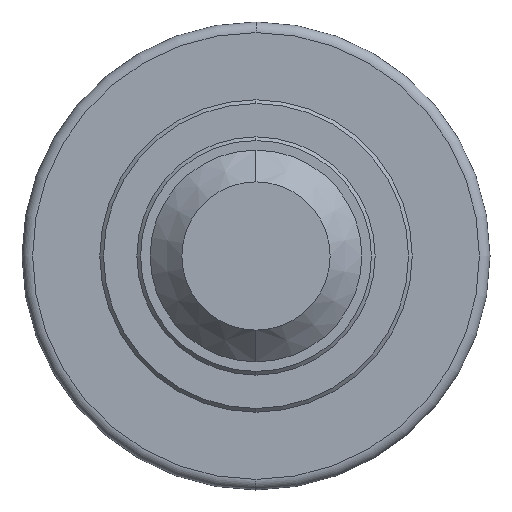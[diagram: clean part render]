
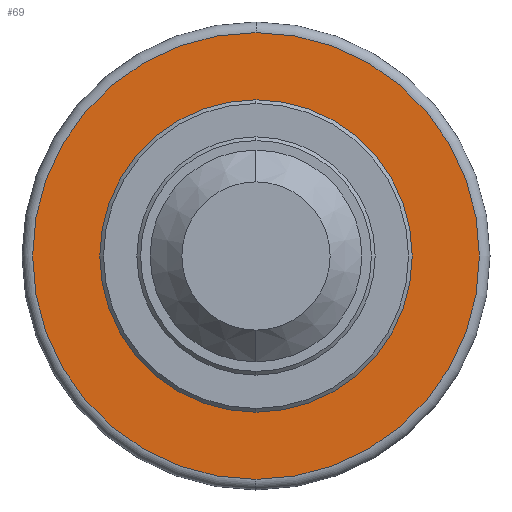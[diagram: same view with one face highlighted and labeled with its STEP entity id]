
A CAD part, left-side view. The second image highlights one B-rep face of the part: STEP entity #69.
In plain terms, the highlighted planar face has unit normal (-1, 0, 0).
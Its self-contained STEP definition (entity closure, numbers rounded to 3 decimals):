
#37 = EDGE_LOOP ( 'NONE', ( #589, #611 ) ) ;
#60 = CARTESIAN_POINT ( 'NONE',  ( 10.5, 0., 0. ) ) ;
#69 = ADVANCED_FACE ( 'NONE', ( #379, #78 ), #457, .T. ) ;
#77 = CARTESIAN_POINT ( 'NONE',  ( 10.5, 28.8, 0. ) ) ;
#78 = FACE_BOUND ( 'NONE', #236, .T. ) ;
#120 = CIRCLE ( 'NONE', #377, 42.2 ) ;
#133 = ORIENTED_EDGE ( 'NONE', *, *, #540, .F. ) ;
#135 = CARTESIAN_POINT ( 'NONE',  ( 10.5, 0., 0. ) ) ;
#151 = EDGE_CURVE ( 'NONE', #648, #551, #787, .T. ) ;
#204 = DIRECTION ( 'NONE',  ( 0., 0., 1. ) ) ;
#232 = DIRECTION ( 'NONE',  ( -1., 0., 0. ) ) ;
#236 = EDGE_LOOP ( 'NONE', ( #806, #133 ) ) ;
#293 = AXIS2_PLACEMENT_3D ( 'NONE', #135, #571, #204 ) ;
#317 = CARTESIAN_POINT ( 'NONE',  ( 10.5, 0., 42.2 ) ) ;
#334 = CARTESIAN_POINT ( 'NONE',  ( 10.5, 0., 0. ) ) ;
#337 = DIRECTION ( 'NONE',  ( -1., 0., 0. ) ) ;
#377 = AXIS2_PLACEMENT_3D ( 'NONE', #654, #232, #596 ) ;
#379 = FACE_OUTER_BOUND ( 'NONE', #37, .T. ) ;
#425 = VERTEX_POINT ( 'NONE', #317 ) ;
#426 = CIRCLE ( 'NONE', #649, 42.2 ) ;
#440 = DIRECTION ( 'NONE',  ( -1., 0., 0. ) ) ;
#457 = PLANE ( 'NONE',  #708 ) ;
#467 = DIRECTION ( 'NONE',  ( 0., 0., 1. ) ) ;
#540 = EDGE_CURVE ( 'NONE', #551, #648, #666, .T. ) ;
#551 = VERTEX_POINT ( 'NONE', #687 ) ;
#571 = DIRECTION ( 'NONE',  ( -1., 0., 0. ) ) ;
#581 = EDGE_CURVE ( 'NONE', #637, #425, #120, .T. ) ;
#588 = DIRECTION ( 'NONE',  ( -1., 0., 0. ) ) ;
#589 = ORIENTED_EDGE ( 'NONE', *, *, #631, .T. ) ;
#596 = DIRECTION ( 'NONE',  ( 0., 0., 1. ) ) ;
#611 = ORIENTED_EDGE ( 'NONE', *, *, #581, .T. ) ;
#631 = EDGE_CURVE ( 'NONE', #425, #637, #426, .T. ) ;
#637 = VERTEX_POINT ( 'NONE', #710 ) ;
#648 = VERTEX_POINT ( 'NONE', #781 ) ;
#649 = AXIS2_PLACEMENT_3D ( 'NONE', #334, #588, #467 ) ;
#654 = CARTESIAN_POINT ( 'NONE',  ( 10.5, 0., 0. ) ) ;
#666 = CIRCLE ( 'NONE', #293, 28.8 ) ;
#687 = CARTESIAN_POINT ( 'NONE',  ( 10.5, 0., -28.8 ) ) ;
#690 = DIRECTION ( 'NONE',  ( 0., 0., 1. ) ) ;
#708 = AXIS2_PLACEMENT_3D ( 'NONE', #77, #337, #690 ) ;
#710 = CARTESIAN_POINT ( 'NONE',  ( 10.5, 0., -42.2 ) ) ;
#781 = CARTESIAN_POINT ( 'NONE',  ( 10.5, 0., 28.8 ) ) ;
#786 = AXIS2_PLACEMENT_3D ( 'NONE', #60, #440, #810 ) ;
#787 = CIRCLE ( 'NONE', #786, 28.8 ) ;
#806 = ORIENTED_EDGE ( 'NONE', *, *, #151, .F. ) ;
#810 = DIRECTION ( 'NONE',  ( 0., 0., 1. ) ) ;
